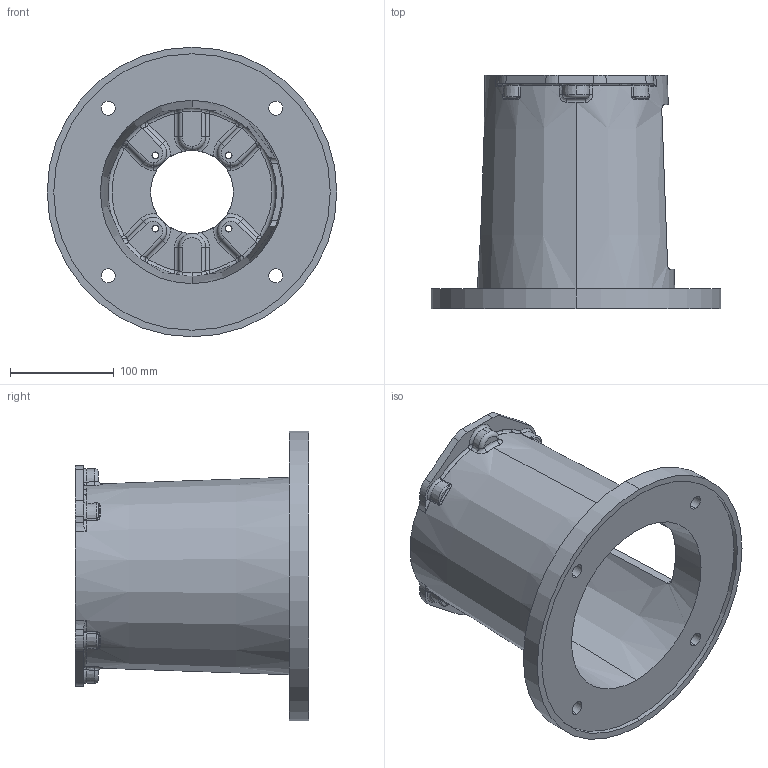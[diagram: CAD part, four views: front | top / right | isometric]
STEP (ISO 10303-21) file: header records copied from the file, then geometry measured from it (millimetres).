
FILE_DESCRIPTION (( 'STEP AP203' ), '1' );
FILE_NAME ('M2848680MS.STEP', '2015-01-19T16:34:09', ( '' ), ( '' ), 'SwSTEP 2.0', 'SolidWorks 2014', '' );
FILE_SCHEMA (( 'CONFIG_CONTROL_DESIGN' ));
Length unit declared in the file: inch
Products named in the file (1): M2848680MS
Bounding box: 279.4 x 225.3 x 279.4 mm (x, y, z)
Volume: 1571999.2 mm3; surface area: 357618.5 mm2
Topology: 1 solids, 1 shells, 335 faces, 841 edges, 490 vertices
Faces by surface type: torus 97, cylinder 82, bspline 64, plane 50, sphere 24, cone 18
Entity records: 13669 total; most frequent: CARTESIAN_POINT 6015, ORIENTED_EDGE 1642, DIRECTION 1610, EDGE_CURVE 821, AXIS2_PLACEMENT_3D 727, VERTEX_POINT 490, CIRCLE 455, EDGE_LOOP 357
